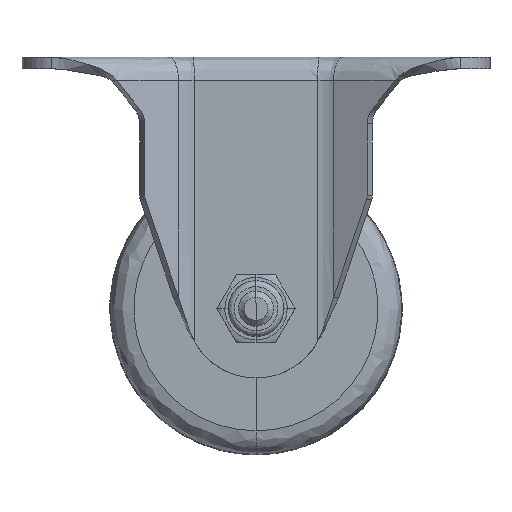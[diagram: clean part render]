
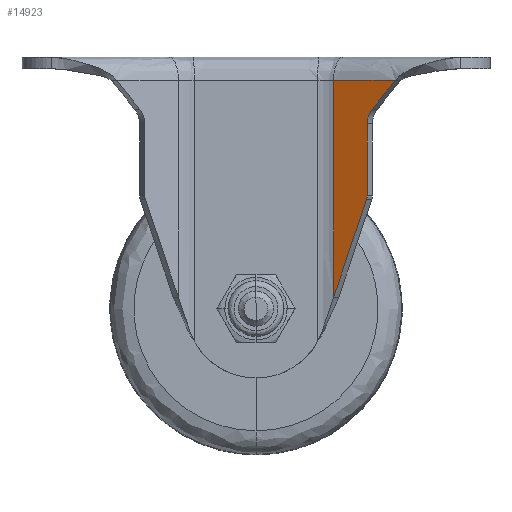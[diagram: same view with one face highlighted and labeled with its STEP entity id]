
A CAD part, front view. The second image highlights one B-rep face of the part: STEP entity #14923.
In plain terms, the highlighted planar face has unit normal (-0.447, -0.894, 0).
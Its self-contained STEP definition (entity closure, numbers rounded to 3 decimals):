
#1398 = CARTESIAN_POINT ( 'NONE',  ( 18.896, -20.948, -24.31 ) ) ;
#1452 = CARTESIAN_POINT ( 'NONE',  ( 18.95, -20.975, -24.153 ) ) ;
#1453 = CARTESIAN_POINT ( 'NONE',  ( 18.999, -20.999, -23.939 ) ) ;
#1454 = CARTESIAN_POINT ( 'NONE',  ( 19., -21., -23.673 ) ) ;
#1801 = LINE ( 'NONE', #10205, #1804 ) ;
#1803 = LINE ( 'NONE', #10226, #1807 ) ;
#1804 = VECTOR ( 'NONE', #10209, 1000. ) ;
#1807 = VECTOR ( 'NONE', #10183, 1000. ) ;
#3477 = AXIS2_PLACEMENT_3D ( 'NONE', #6891, #6914, #6915 ) ;
#5113 = EDGE_CURVE ( 'NONE', #10303, #10055, #14489, .T. ) ;
#5114 = EDGE_CURVE ( 'NONE', #10055, #10327, #14485, .T. ) ;
#5119 = EDGE_CURVE ( 'NONE', #10303, #10424, #10611, .T. ) ;
#5120 = EDGE_CURVE ( 'NONE', #10070, #10424, #1801, .T. ) ;
#5121 = EDGE_CURVE ( 'NONE', #10176, #10070, #10617, .T. ) ;
#5122 = EDGE_CURVE ( 'NONE', #10167, #10176, #1803, .T. ) ;
#6371 = B_SPLINE_CURVE_WITH_KNOTS ( 'NONE', 3,
 ( #1398, #1452, #1453, #1454 ),
 .UNSPECIFIED., .F., .F.,
 ( 4, 4 ),
 ( 0., 0.001 ),
 .UNSPECIFIED. ) ;
#6891 = CARTESIAN_POINT ( 'NONE',  ( 27., -25., 0. ) ) ;
#6912 = PLANE ( 'NONE',  #3477 ) ;
#6914 = DIRECTION ( 'NONE',  ( -0.447, -0.894, 0. ) ) ;
#6915 = DIRECTION ( 'NONE',  ( -0.894, 0.447, 0. ) ) ;
#7631 = FACE_OUTER_BOUND ( 'NONE', #14513, .T. ) ;
#8689 = CARTESIAN_POINT ( 'NONE',  ( 13.267, -18.133, -41.047 ) ) ;
#8699 = CARTESIAN_POINT ( 'NONE',  ( 19.877, -21.438, -8.904 ) ) ;
#8801 = CARTESIAN_POINT ( 'NONE',  ( 19., -21., -23.673 ) ) ;
#8811 = CARTESIAN_POINT ( 'NONE',  ( 19., -21., -11.403 ) ) ;
#8966 = CARTESIAN_POINT ( 'NONE',  ( 13.267, -18.133, -4. ) ) ;
#9011 = CARTESIAN_POINT ( 'NONE',  ( 18.896, -20.948, -24.31 ) ) ;
#9091 = CARTESIAN_POINT ( 'NONE',  ( 23.8, -23.4, -4. ) ) ;
#10022 = DIRECTION ( 'NONE',  ( 0., 0., -1. ) ) ;
#10032 = DIRECTION ( 'NONE',  ( 0.315, -0.157, 0.936 ) ) ;
#10041 = CARTESIAN_POINT ( 'NONE',  ( 13.267, -18.133, 0. ) ) ;
#10055 = VERTEX_POINT ( 'NONE', #8689 ) ;
#10070 = VERTEX_POINT ( 'NONE', #8699 ) ;
#10102 = CARTESIAN_POINT ( 'NONE',  ( 19., -21., -11.403 ) ) ;
#10167 = VERTEX_POINT ( 'NONE', #8801 ) ;
#10175 = CARTESIAN_POINT ( 'NONE',  ( 19.627, -21.313, -9.255 ) ) ;
#10176 = VERTEX_POINT ( 'NONE', #8811 ) ;
#10178 = CARTESIAN_POINT ( 'NONE',  ( 19.124, -21.062, -10.423 ) ) ;
#10183 = DIRECTION ( 'NONE',  ( 0., 0., 1. ) ) ;
#10186 = CARTESIAN_POINT ( 'NONE',  ( 19.498, -21.249, -9.473 ) ) ;
#10188 = CARTESIAN_POINT ( 'NONE',  ( 19.464, -21.232, -9.538 ) ) ;
#10189 = CARTESIAN_POINT ( 'NONE',  ( 19.303, -21.151, -9.886 ) ) ;
#10190 = CARTESIAN_POINT ( 'NONE',  ( 19.296, -21.148, -9.903 ) ) ;
#10191 = CARTESIAN_POINT ( 'NONE',  ( 19.289, -21.144, -9.92 ) ) ;
#10192 = CARTESIAN_POINT ( 'NONE',  ( 19.282, -21.141, -9.938 ) ) ;
#10193 = CARTESIAN_POINT ( 'NONE',  ( 19.242, -21.121, -10.04 ) ) ;
#10194 = CARTESIAN_POINT ( 'NONE',  ( 19.205, -21.103, -10.144 ) ) ;
#10195 = CARTESIAN_POINT ( 'NONE',  ( 19.173, -21.087, -10.25 ) ) ;
#10196 = CARTESIAN_POINT ( 'NONE',  ( 19.166, -21.083, -10.274 ) ) ;
#10197 = CARTESIAN_POINT ( 'NONE',  ( 19.159, -21.079, -10.299 ) ) ;
#10198 = CARTESIAN_POINT ( 'NONE',  ( 19.152, -21.076, -10.323 ) ) ;
#10199 = CARTESIAN_POINT ( 'NONE',  ( 19.598, -21.299, -9.3 ) ) ;
#10200 = CARTESIAN_POINT ( 'NONE',  ( 19.571, -21.285, -9.347 ) ) ;
#10201 = CARTESIAN_POINT ( 'NONE',  ( 19.534, -21.267, -9.409 ) ) ;
#10205 = CARTESIAN_POINT ( 'NONE',  ( 19.877, -21.438, -8.904 ) ) ;
#10207 = CARTESIAN_POINT ( 'NONE',  ( 20.582, -21.791, -4. ) ) ;
#10208 = CARTESIAN_POINT ( 'NONE',  ( 23.8, -23.4, -4. ) ) ;
#10209 = DIRECTION ( 'NONE',  ( 0.596, -0.298, 0.745 ) ) ;
#10211 = CARTESIAN_POINT ( 'NONE',  ( 19.047, -21.023, -10.805 ) ) ;
#10212 = CARTESIAN_POINT ( 'NONE',  ( 19.056, -21.028, -10.746 ) ) ;
#10213 = CARTESIAN_POINT ( 'NONE',  ( 19.036, -21.018, -10.874 ) ) ;
#10214 = CARTESIAN_POINT ( 'NONE',  ( 19.007, -21.003, -11.142 ) ) ;
#10215 = CARTESIAN_POINT ( 'NONE',  ( 19.02, -21.01, -11.013 ) ) ;
#10216 = CARTESIAN_POINT ( 'NONE',  ( 19.027, -21.013, -10.943 ) ) ;
#10217 = CARTESIAN_POINT ( 'NONE',  ( 19., -21., -11.272 ) ) ;
#10218 = CARTESIAN_POINT ( 'NONE',  ( 19.38, -21.19, -9.706 ) ) ;
#10219 = CARTESIAN_POINT ( 'NONE',  ( 19.34, -21.17, -9.795 ) ) ;
#10222 = CARTESIAN_POINT ( 'NONE',  ( 19.723, -21.362, -9.11 ) ) ;
#10223 = CARTESIAN_POINT ( 'NONE',  ( 19.656, -21.328, -9.209 ) ) ;
#10225 = CARTESIAN_POINT ( 'NONE',  ( 19.772, -21.386, -9.04 ) ) ;
#10226 = CARTESIAN_POINT ( 'NONE',  ( 19., -21., 0. ) ) ;
#10227 = CARTESIAN_POINT ( 'NONE',  ( 19.823, -21.412, -8.971 ) ) ;
#10228 = CARTESIAN_POINT ( 'NONE',  ( 19.877, -21.438, -8.904 ) ) ;
#10303 = VERTEX_POINT ( 'NONE', #8966 ) ;
#10327 = VERTEX_POINT ( 'NONE', #9011 ) ;
#10331 = CARTESIAN_POINT ( 'NONE',  ( 13.267, -18.133, -4. ) ) ;
#10332 = CARTESIAN_POINT ( 'NONE',  ( 14.146, -18.573, -4. ) ) ;
#10333 = CARTESIAN_POINT ( 'NONE',  ( 19.436, -21.218, -9.592 ) ) ;
#10335 = CARTESIAN_POINT ( 'NONE',  ( 19.423, -21.211, -9.619 ) ) ;
#10337 = CARTESIAN_POINT ( 'NONE',  ( 19.45, -21.225, -9.565 ) ) ;
#10339 = CARTESIAN_POINT ( 'NONE',  ( 19.078, -21.039, -10.627 ) ) ;
#10340 = CARTESIAN_POINT ( 'NONE',  ( 19.7, -21.35, -9.143 ) ) ;
#10341 = CARTESIAN_POINT ( 'NONE',  ( 13.547, -18.266, -4. ) ) ;
#10343 = CARTESIAN_POINT ( 'NONE',  ( 19.066, -21.033, -10.686 ) ) ;
#10344 = CARTESIAN_POINT ( 'NONE',  ( 13.84, -18.42, -4. ) ) ;
#10346 = CARTESIAN_POINT ( 'NONE',  ( 17.364, -20.182, -4. ) ) ;
#10347 = CARTESIAN_POINT ( 'NONE',  ( 19.678, -21.339, -9.176 ) ) ;
#10348 = CARTESIAN_POINT ( 'NONE',  ( 19.099, -21.05, -10.525 ) ) ;
#10420 = CARTESIAN_POINT ( 'NONE',  ( 13.267, -18.133, -41.047 ) ) ;
#10424 = VERTEX_POINT ( 'NONE', #9091 ) ;
#10611 = B_SPLINE_CURVE_WITH_KNOTS ( 'NONE', 3,
 ( #10331, #10341, #10344, #10332, #10346, #10207, #10208 ),
 .UNSPECIFIED., .F., .F.,
 ( 4, 3, 4 ),
 ( 0., 0.087, 1. ),
 .UNSPECIFIED. ) ;
#10617 = B_SPLINE_CURVE_WITH_KNOTS ( 'NONE', 3,
 ( #10102, #10217, #10214, #10215, #10216, #10213, #10211, #10212, #10343, #10339, #10348, #10178, #10198, #10197, #10196, #10195, #10194, #10193, #10192, #10191, #10190, #10189, #10219, #10218, #10335, #10333, #10337, #10188, #10186, #10201, #10200, #10199, #10175, #10223, #10347, #10340, #10222, #10225, #10227, #10228 ),
 .UNSPECIFIED., .F., .F.,
 ( 4, 3, 3, 3, 3, 3, 3, 3, 3, 3, 3, 3, 3, 4 ),
 ( 0., 0., 0.001, 0.001, 0.001, 0.001, 0.002, 0.002, 0.002, 0.002, 0.002, 0.002, 0.002, 0.003 ),
 .UNSPECIFIED. ) ;
#10697 = ORIENTED_EDGE ( 'NONE', *, *, #5113, .T. ) ;
#10698 = ORIENTED_EDGE ( 'NONE', *, *, #5120, .T. ) ;
#10724 = ORIENTED_EDGE ( 'NONE', *, *, #5122, .T. ) ;
#10760 = ORIENTED_EDGE ( 'NONE', *, *, #5119, .F. ) ;
#10761 = ORIENTED_EDGE ( 'NONE', *, *, #5121, .T. ) ;
#10772 = ORIENTED_EDGE ( 'NONE', *, *, #14300, .T. ) ;
#10780 = ORIENTED_EDGE ( 'NONE', *, *, #5114, .T. ) ;
#14300 = EDGE_CURVE ( 'NONE', #10327, #10167, #6371, .T. ) ;
#14484 = VECTOR ( 'NONE', #10022, 1000. ) ;
#14485 = LINE ( 'NONE', #10420, #14487 ) ;
#14487 = VECTOR ( 'NONE', #10032, 1000. ) ;
#14489 = LINE ( 'NONE', #10041, #14484 ) ;
#14513 = EDGE_LOOP ( 'NONE', ( #10761, #10698, #10760, #10697, #10780, #10772, #10724 ) ) ;
#14923 = ADVANCED_FACE ( 'NONE', ( #7631 ), #6912, .T. ) ;
